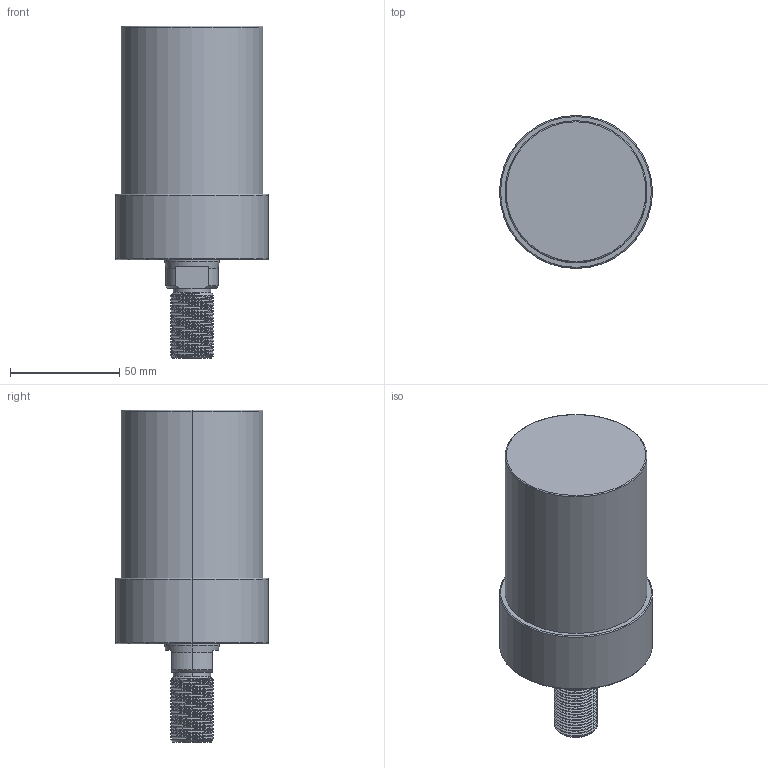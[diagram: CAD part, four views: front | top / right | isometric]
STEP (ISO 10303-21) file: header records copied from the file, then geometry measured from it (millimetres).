
FILE_DESCRIPTION (( 'STEP AP203' ), '1' );
FILE_NAME ('CLLU-065GT-060.STEP', '2020-01-16T01:18:12', ( '' ), ( '' ), 'SwSTEP 2.0', 'SolidWorks 2015', '' );
FILE_SCHEMA (( 'CONFIG_CONTROL_DESIGN' ));
Length unit declared in the file: millimetre
Products named in the file (1): CLLU-065GT-060
Bounding box: 70 x 70 x 152 mm (x, y, z)
Volume: 383950.2 mm3; surface area: 35181.3 mm2
Topology: 1 solids, 1 shells, 106 faces, 268 edges, 165 vertices
Faces by surface type: cylinder 61, cone 25, plane 12, torus 6, bspline 2
Entity records: 5299 total; most frequent: CARTESIAN_POINT 2917, ORIENTED_EDGE 520, DIRECTION 457, EDGE_CURVE 260, AXIS2_PLACEMENT_3D 182, VERTEX_POINT 165, EDGE_LOOP 115, ADVANCED_FACE 106
